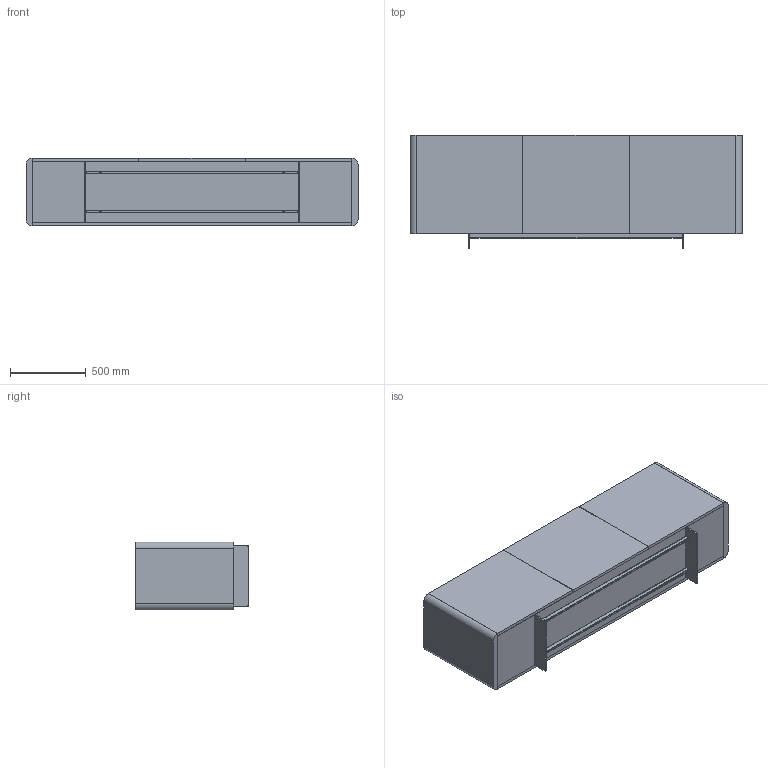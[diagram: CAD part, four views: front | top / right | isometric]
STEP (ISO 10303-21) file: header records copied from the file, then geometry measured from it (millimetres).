
FILE_DESCRIPTION (( 'STEP AP203' ), '1' );
FILE_NAME ('AL2LC_Alma_220x45x75h_Top Ceramic.STEP', '2024-08-06T08:03:08', ( '' ), ( '' ), 'SwSTEP 2.0', 'SolidWorks 2022', '' );
FILE_SCHEMA (( 'CONFIG_CONTROL_DESIGN' ));
Length unit declared in the file: millimetre
Products named in the file (4): KxxxX45-00-Piani Madie in ceramica_K220X45; AL1000XX-02-BASE MADIA ALMA METALLO VERNICIATO_AL100003-BASE L220cm; ALC00001-01-CONTENITORE MADIA L220_alma rivestita; AL2LC_Alma_220x45x75h_Top Ceramic
Assembly tree (3 placements, depth 2):
  AL2LC_Alma_220x45x75h_Top Ceramic
    KxxxX45-00-Piani Madie in ceramica_K220X45
    ALC00001-01-CONTENITORE MADIA L220_alma rivestita
    AL1000XX-02-BASE MADIA ALMA METALLO VERNICIATO_AL100003-BASE L220cm
Bounding box: 2198 x 750 x 450 mm (x, y, z)
Volume: 138531848.7 mm3; surface area: 14204619.8 mm2
Topology: 15 solids, 15 shells, 200 faces, 506 edges, 320 vertices
Faces by surface type: plane 108, cylinder 64, cone 28
Entity records: 6400 total; most frequent: CARTESIAN_POINT 1144, DIRECTION 1026, ORIENTED_EDGE 980, EDGE_CURVE 490, AXIS2_PLACEMENT_3D 346, LINE 334, VECTOR 334, VERTEX_POINT 320
